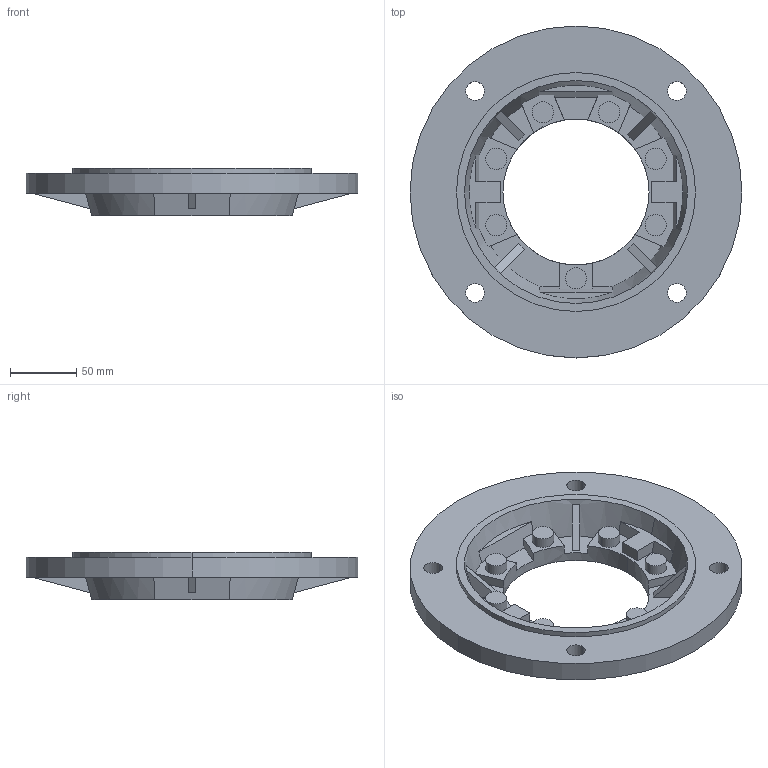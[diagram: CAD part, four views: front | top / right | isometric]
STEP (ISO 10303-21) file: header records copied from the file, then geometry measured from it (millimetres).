
FILE_DESCRIPTION(/* description */ (''),/* implementation_level */ '2;1');
FILE_NAME(/* name */ '2_FLANGIA (CAMPANA) LATERALE FB B083',/* time_stamp */ '2025-10-22T11:06:00+02:00',/* author */ (''),/* organization */ (''),/* preprocessor_version */ 'ST-DEVELOPER v19.2',/* originating_system */ 'Rhino 8.23',/* authorisation */ '');
FILE_SCHEMA (('CONFIG_CONTROL_DESIGN'));
Length unit declared in the file: millimetre
Products named in the file (3): Document; BFU083FB; Blocco 01
Bounding box: 250 x 250 x 36 mm (x, y, z)
Volume: 602192 mm3; surface area: 124024.4 mm2
Topology: 5 solids, 5 shells, 137 faces, 354 edges, 236 vertices
Faces by surface type: plane 99, cylinder 28, bspline 10
Entity records: 5476 total; most frequent: CARTESIAN_POINT 1413, ORIENTED_EDGE 708, DIRECTION 355, EDGE_CURVE 354, AXIS2_PLACEMENT_3D 241, B_SPLINE_CURVE_WITH_KNOTS 238, VERTEX_POINT 236, EDGE_LOOP 156
